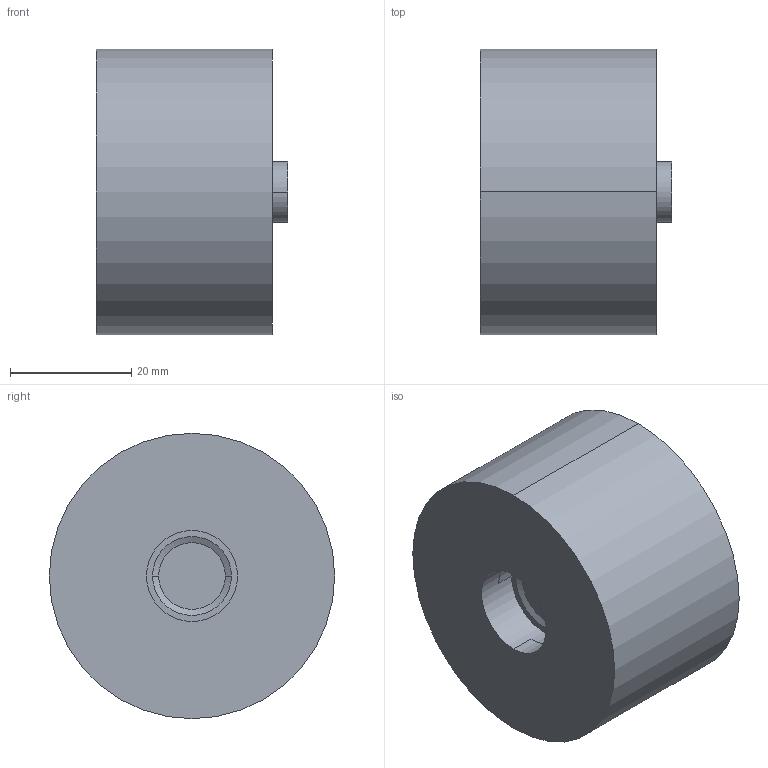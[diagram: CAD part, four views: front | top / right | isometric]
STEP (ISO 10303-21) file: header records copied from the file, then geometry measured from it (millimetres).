
FILE_DESCRIPTION((''),'2;1');
FILE_NAME('CV-16WS_SB_ASM','2026-05-07T',('user'),(''),'PRO/ENGINEER BY PARAMETRIC TECHNOLOGY CORPORATION, 2011220','PRO/ENGINEER BY PARAMETRIC TECHNOLOGY CORPORATION, 2011220','');
FILE_SCHEMA(('CONFIG_CONTROL_DESIGN'));
Length unit declared in the file: millimetre
Products named in the file (5): H71W_KORPUS; H71W_DISK; H71W_KORPUS_2; H71W_PRUZINA; CV-16WS_SB_ASM
Assembly tree (4 placements, depth 2):
  CV-16WS_SB_ASM
    H71W_KORPUS
    H71W_DISK
    H71W_KORPUS_2
    H71W_PRUZINA
Bounding box: 31.5 x 47 x 47 mm (x, y, z)
Volume: 32222.3 mm3; surface area: 19262.6 mm2
Topology: 4 solids, 6 shells, 74 faces, 174 edges, 114 vertices
Faces by surface type: cylinder 42, plane 20, bspline 8, cone 4
Entity records: 3969 total; most frequent: CARTESIAN_POINT 2075, DIRECTION 404, ORIENTED_EDGE 340, EDGE_CURVE 174, AXIS2_PLACEMENT_3D 169, VERTEX_POINT 114, EDGE_LOOP 90, CIRCLE 90
